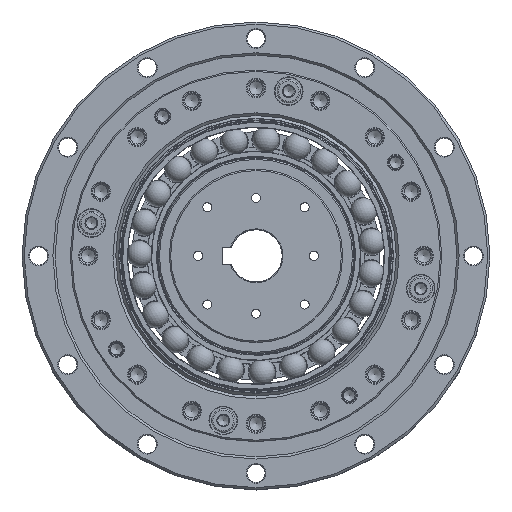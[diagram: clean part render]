
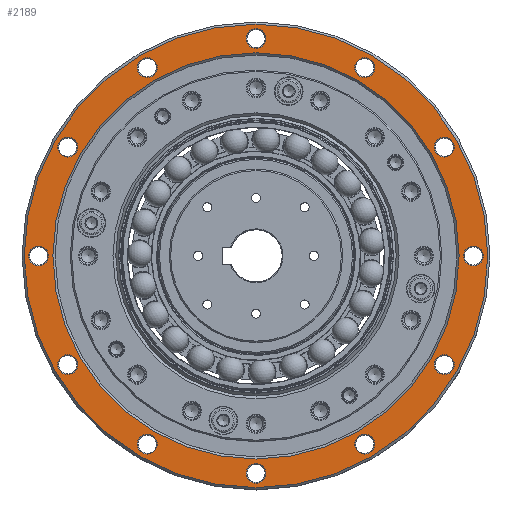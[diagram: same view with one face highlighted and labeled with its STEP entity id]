
A CAD part, top view. The second image highlights one B-rep face of the part: STEP entity #2189.
In plain terms, the highlighted planar face has unit normal (0, 0, 1).
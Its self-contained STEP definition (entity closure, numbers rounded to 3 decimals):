
#2189=ADVANCED_FACE('',(#3415,#3416,#3417,#3418,#3419,#3420,#3421,#3422,
#3423,#3424,#3425,#3426,#3427,#3428),#2608,.F.);
#2608=PLANE('',#10685);
#3415=FACE_BOUND('',#4490,.T.);
#3416=FACE_BOUND('',#4491,.T.);
#3417=FACE_BOUND('',#4492,.T.);
#3418=FACE_BOUND('',#4493,.T.);
#3419=FACE_BOUND('',#4494,.T.);
#3420=FACE_BOUND('',#4495,.T.);
#3421=FACE_BOUND('',#4496,.T.);
#3422=FACE_BOUND('',#4497,.T.);
#3423=FACE_BOUND('',#4498,.T.);
#3424=FACE_BOUND('',#4499,.T.);
#3425=FACE_BOUND('',#4500,.T.);
#3426=FACE_BOUND('',#4501,.T.);
#3427=FACE_BOUND('',#4502,.T.);
#3428=FACE_BOUND('',#4503,.T.);
#4490=EDGE_LOOP('',(#5741));
#4491=EDGE_LOOP('',(#5742));
#4492=EDGE_LOOP('',(#5743));
#4493=EDGE_LOOP('',(#5744));
#4494=EDGE_LOOP('',(#5745));
#4495=EDGE_LOOP('',(#5746));
#4496=EDGE_LOOP('',(#5747));
#4497=EDGE_LOOP('',(#5748));
#4498=EDGE_LOOP('',(#5749));
#4499=EDGE_LOOP('',(#5750));
#4500=EDGE_LOOP('',(#5751));
#4501=EDGE_LOOP('',(#5752));
#4502=EDGE_LOOP('',(#5753));
#4503=EDGE_LOOP('',(#5754));
#5741=ORIENTED_EDGE('',*,*,#8496,.T.);
#5742=ORIENTED_EDGE('',*,*,#8497,.T.);
#5743=ORIENTED_EDGE('',*,*,#8498,.T.);
#5744=ORIENTED_EDGE('',*,*,#8499,.T.);
#5745=ORIENTED_EDGE('',*,*,#8500,.T.);
#5746=ORIENTED_EDGE('',*,*,#8501,.T.);
#5747=ORIENTED_EDGE('',*,*,#8502,.T.);
#5748=ORIENTED_EDGE('',*,*,#8503,.T.);
#5749=ORIENTED_EDGE('',*,*,#8504,.T.);
#5750=ORIENTED_EDGE('',*,*,#8505,.T.);
#5751=ORIENTED_EDGE('',*,*,#8506,.T.);
#5752=ORIENTED_EDGE('',*,*,#8507,.T.);
#5753=ORIENTED_EDGE('',*,*,#8508,.F.);
#5754=ORIENTED_EDGE('',*,*,#8495,.T.);
#7586=VERTEX_POINT('',#15731);
#7587=VERTEX_POINT('',#15734);
#7588=VERTEX_POINT('',#15736);
#7589=VERTEX_POINT('',#15738);
#7590=VERTEX_POINT('',#15740);
#7591=VERTEX_POINT('',#15742);
#7592=VERTEX_POINT('',#15744);
#7593=VERTEX_POINT('',#15746);
#7594=VERTEX_POINT('',#15748);
#7595=VERTEX_POINT('',#15750);
#7596=VERTEX_POINT('',#15752);
#7597=VERTEX_POINT('',#15754);
#7598=VERTEX_POINT('',#15756);
#7599=VERTEX_POINT('',#15758);
#8495=EDGE_CURVE('',#7586,#7586,#9576,.T.);
#8496=EDGE_CURVE('',#7587,#7587,#9577,.T.);
#8497=EDGE_CURVE('',#7588,#7588,#9578,.T.);
#8498=EDGE_CURVE('',#7589,#7589,#9579,.T.);
#8499=EDGE_CURVE('',#7590,#7590,#9580,.T.);
#8500=EDGE_CURVE('',#7591,#7591,#9581,.T.);
#8501=EDGE_CURVE('',#7592,#7592,#9582,.T.);
#8502=EDGE_CURVE('',#7593,#7593,#9583,.T.);
#8503=EDGE_CURVE('',#7594,#7594,#9584,.T.);
#8504=EDGE_CURVE('',#7595,#7595,#9585,.T.);
#8505=EDGE_CURVE('',#7596,#7596,#9586,.T.);
#8506=EDGE_CURVE('',#7597,#7597,#9587,.T.);
#8507=EDGE_CURVE('',#7598,#7598,#9588,.T.);
#8508=EDGE_CURVE('',#7599,#7599,#9589,.T.);
#9576=CIRCLE('',#10670,73.8);
#9577=CIRCLE('',#10672,3.6);
#9578=CIRCLE('',#10673,3.6);
#9579=CIRCLE('',#10674,3.6);
#9580=CIRCLE('',#10675,3.6);
#9581=CIRCLE('',#10676,3.6);
#9582=CIRCLE('',#10677,3.6);
#9583=CIRCLE('',#10678,3.6);
#9584=CIRCLE('',#10679,3.6);
#9585=CIRCLE('',#10680,3.6);
#9586=CIRCLE('',#10681,3.6);
#9587=CIRCLE('',#10682,3.6);
#9588=CIRCLE('',#10683,3.6);
#9589=CIRCLE('',#10684,84.2);
#10670=AXIS2_PLACEMENT_3D('',#15730,#12813,#12814);
#10672=AXIS2_PLACEMENT_3D('',#15733,#12817,#12818);
#10673=AXIS2_PLACEMENT_3D('',#15735,#12819,#12820);
#10674=AXIS2_PLACEMENT_3D('',#15737,#12821,#12822);
#10675=AXIS2_PLACEMENT_3D('',#15739,#12823,#12824);
#10676=AXIS2_PLACEMENT_3D('',#15741,#12825,#12826);
#10677=AXIS2_PLACEMENT_3D('',#15743,#12827,#12828);
#10678=AXIS2_PLACEMENT_3D('',#15745,#12829,#12830);
#10679=AXIS2_PLACEMENT_3D('',#15747,#12831,#12832);
#10680=AXIS2_PLACEMENT_3D('',#15749,#12833,#12834);
#10681=AXIS2_PLACEMENT_3D('',#15751,#12835,#12836);
#10682=AXIS2_PLACEMENT_3D('',#15753,#12837,#12838);
#10683=AXIS2_PLACEMENT_3D('',#15755,#12839,#12840);
#10684=AXIS2_PLACEMENT_3D('',#15757,#12841,#12842);
#10685=AXIS2_PLACEMENT_3D('',#15759,#12843,#12844);
#12813=DIRECTION('',(0.,0.,-1.));
#12814=DIRECTION('',(-1.,0.,0.));
#12817=DIRECTION('',(0.,0.,-1.));
#12818=DIRECTION('',(-1.,0.,0.));
#12819=DIRECTION('',(0.,0.,-1.));
#12820=DIRECTION('',(-1.,0.,0.));
#12821=DIRECTION('',(0.,0.,-1.));
#12822=DIRECTION('',(-1.,0.,0.));
#12823=DIRECTION('',(0.,0.,-1.));
#12824=DIRECTION('',(-1.,0.,0.));
#12825=DIRECTION('',(0.,0.,-1.));
#12826=DIRECTION('',(-1.,0.,0.));
#12827=DIRECTION('',(0.,0.,-1.));
#12828=DIRECTION('',(-1.,0.,0.));
#12829=DIRECTION('',(0.,0.,-1.));
#12830=DIRECTION('',(-1.,0.,0.));
#12831=DIRECTION('',(0.,0.,-1.));
#12832=DIRECTION('',(-1.,0.,0.));
#12833=DIRECTION('',(0.,0.,-1.));
#12834=DIRECTION('',(-1.,0.,0.));
#12835=DIRECTION('',(0.,0.,-1.));
#12836=DIRECTION('',(-1.,0.,0.));
#12837=DIRECTION('',(0.,0.,-1.));
#12838=DIRECTION('',(-1.,0.,0.));
#12839=DIRECTION('',(0.,0.,-1.));
#12840=DIRECTION('',(-1.,0.,0.));
#12841=DIRECTION('',(0.,0.,-1.));
#12842=DIRECTION('',(-1.,0.,0.));
#12843=DIRECTION('',(0.,0.,-1.));
#12844=DIRECTION('',(-1.,0.,0.));
#15730=CARTESIAN_POINT('',(0.,0.,29.));
#15731=CARTESIAN_POINT('',(-73.8,0.,29.));
#15733=CARTESIAN_POINT('',(39.5,-68.416,29.));
#15734=CARTESIAN_POINT('',(35.9,-68.416,29.));
#15735=CARTESIAN_POINT('',(68.416,-39.5,29.));
#15736=CARTESIAN_POINT('',(64.816,-39.5,29.));
#15737=CARTESIAN_POINT('',(79.,0.,29.));
#15738=CARTESIAN_POINT('',(75.4,0.,29.));
#15739=CARTESIAN_POINT('',(68.416,39.5,29.));
#15740=CARTESIAN_POINT('',(64.816,39.5,29.));
#15741=CARTESIAN_POINT('',(39.5,68.416,29.));
#15742=CARTESIAN_POINT('',(35.9,68.416,29.));
#15743=CARTESIAN_POINT('',(0.,79.,29.));
#15744=CARTESIAN_POINT('',(-3.6,79.,29.));
#15745=CARTESIAN_POINT('',(-39.5,68.416,29.));
#15746=CARTESIAN_POINT('',(-43.1,68.416,29.));
#15747=CARTESIAN_POINT('',(-68.416,39.5,29.));
#15748=CARTESIAN_POINT('',(-72.016,39.5,29.));
#15749=CARTESIAN_POINT('',(-79.,0.,29.));
#15750=CARTESIAN_POINT('',(-82.6,0.,29.));
#15751=CARTESIAN_POINT('',(-68.416,-39.5,29.));
#15752=CARTESIAN_POINT('',(-72.016,-39.5,29.));
#15753=CARTESIAN_POINT('',(-39.5,-68.416,29.));
#15754=CARTESIAN_POINT('',(-43.1,-68.416,29.));
#15755=CARTESIAN_POINT('',(0.,-79.,29.));
#15756=CARTESIAN_POINT('',(-3.6,-79.,29.));
#15757=CARTESIAN_POINT('',(0.,0.,29.));
#15758=CARTESIAN_POINT('',(-84.2,0.,29.));
#15759=CARTESIAN_POINT('',(73.8,0.,29.));
